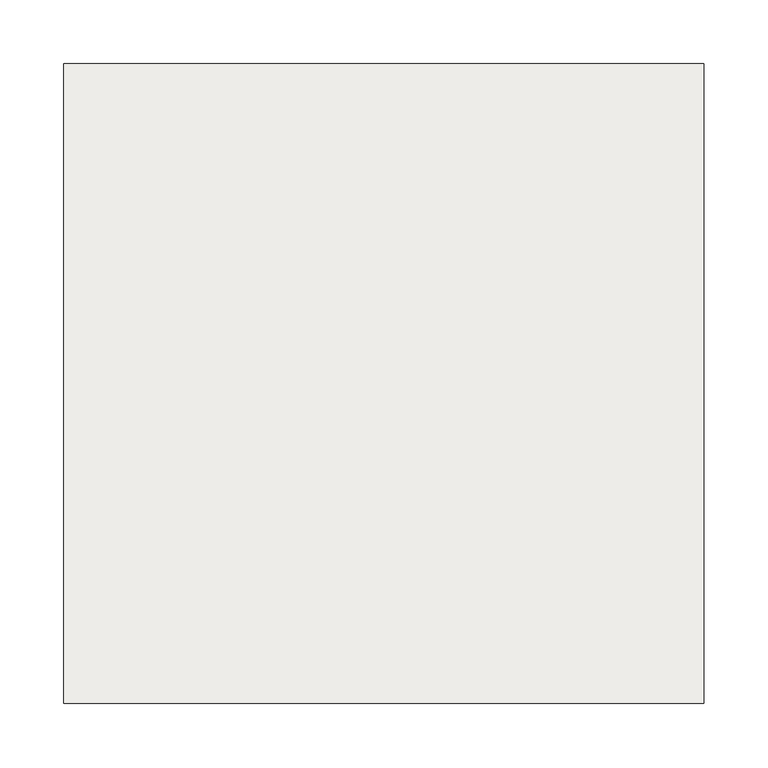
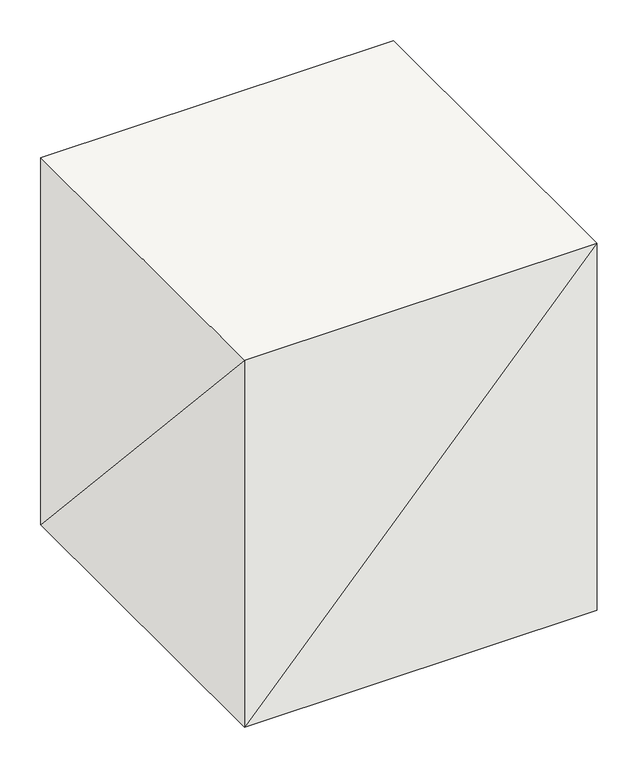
"""IFC4 building model written with IfcOpenShell, lengths in millimetres: slab geometry."""

from ifc_helpers import new_model, si_unit, origin, place, context, project, spatial, faceted_brep, source, transform, mapped, element, save


def slab_b31ccf51(model_context):
    return source(origin(), model_context, "Body", "Brep", [
        faceted_brep([(250.0, 250.0, -550.0), (250.0, -250.0, -550.0), (-250.0, -250.0, -550.0), (-250.0, 250.0, -550.0), (-250.0, 250.0, 0.0), (-250.0, -250.0, 0.0), (250.0, -250.0, 0.0), (250.0, 250.0, 0.0)], [[[0, 1, 2, 3]], [[4, 5, 6, 7]], [[4, 3, 5]], [[3, 2, 5]], [[5, 2, 6]], [[2, 1, 6]], [[6, 1, 7]], [[1, 0, 7]], [[7, 0, 4]], [[0, 3, 4]]]),
    ])


if __name__ == "__main__":
    model = new_model("IFC4")
    model_context = context("Model", 3, world=origin())
    ifc_project = project(units=[si_unit("LENGTHUNIT", "METRE", prefix="MILLI")], contexts=[model_context])
    site = spatial("IfcSite", under=ifc_project)
    building = spatial("IfcBuilding", under=site)
    placement = place(None, origin())
    slab_shape = slab_b31ccf51(model_context)
    element("IfcSlab", 1, at=placement, inside=building, context=model_context, shape_type="MappedRepresentation", body=[
        mapped(slab_shape, transform((0.0, 0.0, 0.0), x_axis=(1.0, 0.0, 0.0), y_axis=(0.0, 1.0, 0.0), z_axis=(0.0, 0.0, 1.0))),
    ])
    save(model, "model.ifc")
